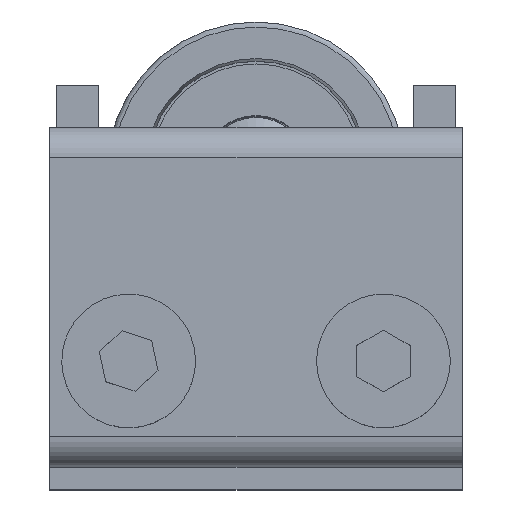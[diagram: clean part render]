
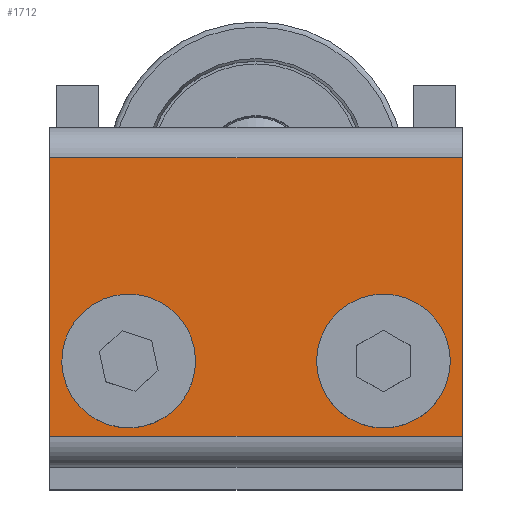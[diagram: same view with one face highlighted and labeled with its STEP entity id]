
A CAD part, top view. The second image highlights one B-rep face of the part: STEP entity #1712.
In plain terms, the highlighted planar face has unit normal (0, 0, 1) as drawn and (0, 0, -1) by its records, which use the part's own axes.
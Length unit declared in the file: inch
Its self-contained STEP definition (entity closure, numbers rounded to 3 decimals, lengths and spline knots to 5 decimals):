
#1405=DIRECTION('',(0.,-1.,0.));
#1406=VECTOR('',#1405,0.82);
#1407=CARTESIAN_POINT('',(-0.6075,0.41,-0.18));
#1408=LINE('',#1407,#1406);
#1431=DIRECTION('',(0.,-1.,0.));
#1432=VECTOR('',#1431,0.82);
#1433=CARTESIAN_POINT('',(0.6075,0.41,-0.18));
#1434=LINE('',#1433,#1432);
#1435=CARTESIAN_POINT('',(0.375,-0.188,-0.18));
#1436=DIRECTION('',(0.,0.,1.));
#1437=DIRECTION('',(1.,0.,0.));
#1438=AXIS2_PLACEMENT_3D('',#1435,#1436,#1437);
#1440=CARTESIAN_POINT('',(0.375,-0.188,-0.18));
#1441=DIRECTION('',(0.,0.,1.));
#1442=DIRECTION('',(-1.,0.,0.));
#1443=AXIS2_PLACEMENT_3D('',#1440,#1441,#1442);
#1445=CARTESIAN_POINT('',(-0.375,-0.188,-0.18));
#1446=DIRECTION('',(0.,0.,1.));
#1447=DIRECTION('',(1.,0.,0.));
#1448=AXIS2_PLACEMENT_3D('',#1445,#1446,#1447);
#1450=CARTESIAN_POINT('',(-0.375,-0.188,-0.18));
#1451=DIRECTION('',(0.,0.,1.));
#1452=DIRECTION('',(-1.,0.,0.));
#1453=AXIS2_PLACEMENT_3D('',#1450,#1451,#1452);
#1459=DIRECTION('',(-1.,0.,0.));
#1460=VECTOR('',#1459,1.215);
#1461=CARTESIAN_POINT('',(0.6075,0.41,-0.18));
#1462=LINE('',#1461,#1460);
#1475=DIRECTION('',(1.,0.,0.));
#1476=VECTOR('',#1475,1.215);
#1477=CARTESIAN_POINT('',(-0.6075,-0.41,-0.18));
#1478=LINE('',#1477,#1476);
#1547=CARTESIAN_POINT('',(0.6075,0.41,-0.18));
#1549=VERTEX_POINT('',#1547);
#1552=CARTESIAN_POINT('',(0.5,-0.188,-0.18));
#1554=VERTEX_POINT('',#1552);
#1573=CARTESIAN_POINT('',(-0.6075,-0.41,-0.18));
#1574=VERTEX_POINT('',#1573);
#1578=CARTESIAN_POINT('',(-0.25,-0.188,-0.18));
#1580=VERTEX_POINT('',#1578);
#1583=CARTESIAN_POINT('',(-0.6075,0.41,-0.18));
#1584=VERTEX_POINT('',#1583);
#1585=CARTESIAN_POINT('',(-0.5,-0.188,-0.18));
#1586=VERTEX_POINT('',#1585);
#1592=CARTESIAN_POINT('',(0.25,-0.188,-0.18));
#1594=VERTEX_POINT('',#1592);
#1597=CARTESIAN_POINT('',(0.6075,-0.41,-0.18));
#1598=VERTEX_POINT('',#1597);
#1687=CARTESIAN_POINT('',(0.6075,0.5,-0.18));
#1688=DIRECTION('',(0.,0.,1.));
#1689=DIRECTION('',(0.,-1.,0.));
#1690=AXIS2_PLACEMENT_3D('',#1687,#1688,#1689);
#1691=PLANE('',#1690);
#1692=ORIENTED_EDGE('',*,*,#1639,.F.);
#1694=ORIENTED_EDGE('',*,*,#1693,.T.);
#1695=ORIENTED_EDGE('',*,*,#1666,.T.);
#1697=ORIENTED_EDGE('',*,*,#1696,.T.);
#1698=EDGE_LOOP('',(#1692,#1694,#1695,#1697));
#1699=FACE_OUTER_BOUND('',#1698,.F.);
#1701=ORIENTED_EDGE('',*,*,#1700,.F.);
#1703=ORIENTED_EDGE('',*,*,#1702,.F.);
#1704=EDGE_LOOP('',(#1701,#1703));
#1705=FACE_BOUND('',#1704,.F.);
#1707=ORIENTED_EDGE('',*,*,#1706,.F.);
#1709=ORIENTED_EDGE('',*,*,#1708,.F.);
#1710=EDGE_LOOP('',(#1707,#1709));
#1711=FACE_BOUND('',#1710,.F.);
#1439=CIRCLE('',#1438,0.125);
#1444=CIRCLE('',#1443,0.125);
#1449=CIRCLE('',#1448,0.125);
#1454=CIRCLE('',#1453,0.125);
#1639=EDGE_CURVE('',#1549,#1598,#1434,.T.);
#1666=EDGE_CURVE('',#1584,#1574,#1408,.T.);
#1693=EDGE_CURVE('',#1549,#1584,#1462,.T.);
#1696=EDGE_CURVE('',#1574,#1598,#1478,.T.);
#1700=EDGE_CURVE('',#1554,#1594,#1439,.T.);
#1702=EDGE_CURVE('',#1594,#1554,#1444,.T.);
#1706=EDGE_CURVE('',#1580,#1586,#1449,.T.);
#1708=EDGE_CURVE('',#1586,#1580,#1454,.T.);
#1712=ADVANCED_FACE('',(#1699,#1705,#1711),#1691,.F.);
